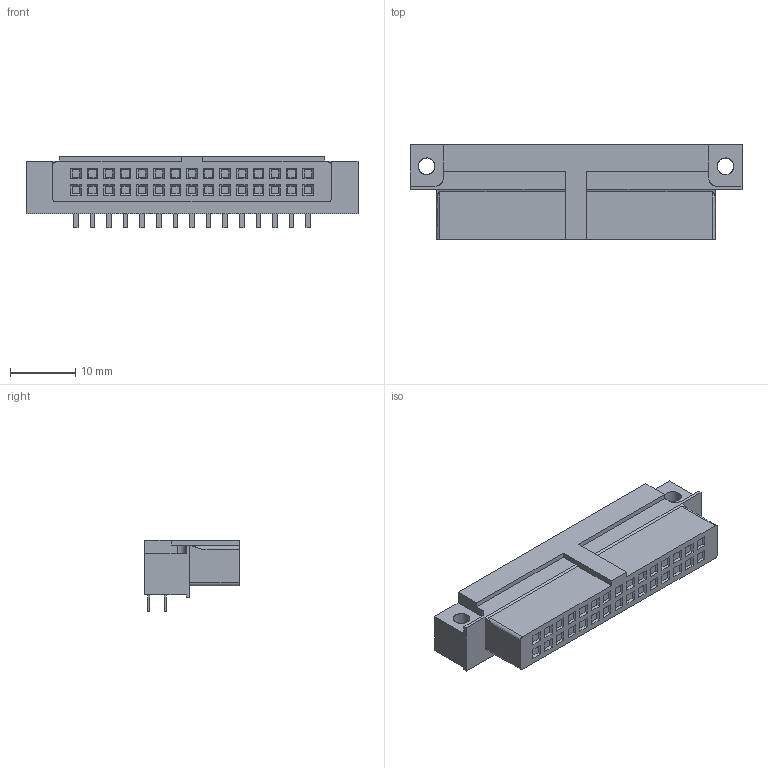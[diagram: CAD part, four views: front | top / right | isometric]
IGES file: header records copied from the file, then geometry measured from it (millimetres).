
Global section: file name: Q:\us297865\11517-web-models-ts0414-ts0086\78-5110-6003-6.igs; native system: NX V7.5; preprocessor: SIEMENS PLM Software NX 7.5; date: 20121010.085628; units: inch
Bounding box: 50.8 x 14.48 x 10.97 mm (x, y, z)
Surface area: 2700.3 mm2 (no closed solid volume)
Topology: 0 solids, 0 shells, 336 faces, 1678 edges, 1676 vertices
Faces by surface type: bspline 336
